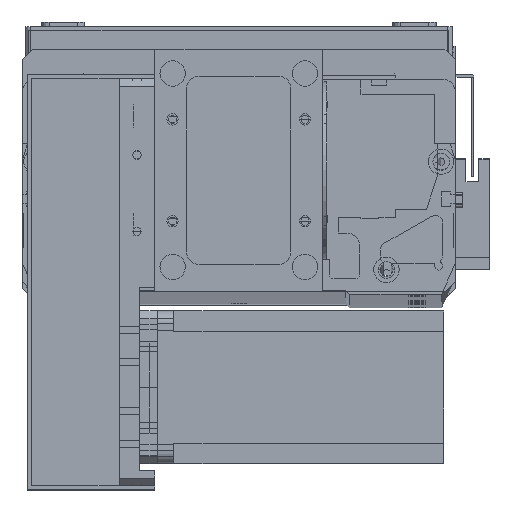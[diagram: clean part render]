
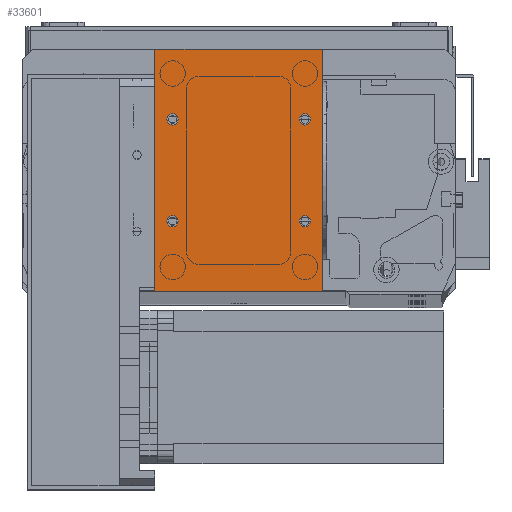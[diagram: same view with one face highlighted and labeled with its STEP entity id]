
A CAD part, top view. The second image highlights one B-rep face of the part: STEP entity #33601.
In plain terms, the highlighted planar face has unit normal (0, 0, 1).
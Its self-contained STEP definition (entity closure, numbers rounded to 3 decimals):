
#54 = DIRECTION ( 'NONE',  ( 0., -1., 0. ) ) ;
#174 = AXIS2_PLACEMENT_3D ( 'NONE', #1775, #2350, #2309 ) ;
#411 = CARTESIAN_POINT ( 'NONE',  ( 0., 0., 2. ) ) ;
#1315 = VERTEX_POINT ( 'NONE', #3995 ) ;
#1442 = CARTESIAN_POINT ( 'NONE',  ( 66., 0., 2. ) ) ;
#1775 = CARTESIAN_POINT ( 'NONE',  ( 59., 67.5, 2. ) ) ;
#1949 = EDGE_CURVE ( 'NONE', #20574, #1315, #27474, .T. ) ;
#2309 = DIRECTION ( 'NONE',  ( 1., 0., 0. ) ) ;
#2350 = DIRECTION ( 'NONE',  ( 0., 0., 1. ) ) ;
#2443 = CARTESIAN_POINT ( 'NONE',  ( 7., 67.5, 2. ) ) ;
#2707 = DIRECTION ( 'NONE',  ( 0., 0., 1. ) ) ;
#2804 = CARTESIAN_POINT ( 'NONE',  ( 0., 95., 2. ) ) ;
#3148 = EDGE_LOOP ( 'NONE', ( #3349, #14828 ) ) ;
#3349 = ORIENTED_EDGE ( 'NONE', *, *, #5697, .F. ) ;
#3589 = EDGE_CURVE ( 'NONE', #32654, #26481, #22846, .T. ) ;
#3813 = FACE_BOUND ( 'NONE', #33453, .T. ) ;
#3995 = CARTESIAN_POINT ( 'NONE',  ( 56.75, 67.5, 2. ) ) ;
#4403 = AXIS2_PLACEMENT_3D ( 'NONE', #19081, #2707, #21762 ) ;
#4791 = AXIS2_PLACEMENT_3D ( 'NONE', #31991, #16202, #34560 ) ;
#4952 = EDGE_LOOP ( 'NONE', ( #21361, #5451 ) ) ;
#5258 = DIRECTION ( 'NONE',  ( 1., 0., 0. ) ) ;
#5302 = ORIENTED_EDGE ( 'NONE', *, *, #34038, .F. ) ;
#5451 = ORIENTED_EDGE ( 'NONE', *, *, #18961, .F. ) ;
#5697 = EDGE_CURVE ( 'NONE', #13040, #24769, #10021, .T. ) ;
#6417 = CARTESIAN_POINT ( 'NONE',  ( 7., 27.5, 2. ) ) ;
#7358 = VECTOR ( 'NONE', #31015, 1000. ) ;
#7969 = EDGE_CURVE ( 'NONE', #25151, #24839, #15037, .T. ) ;
#8451 = VECTOR ( 'NONE', #16994, 1000. ) ;
#8768 = VERTEX_POINT ( 'NONE', #13777 ) ;
#8904 = VERTEX_POINT ( 'NONE', #10325 ) ;
#9286 = LINE ( 'NONE', #19708, #8451 ) ;
#9349 = FACE_OUTER_BOUND ( 'NONE', #24140, .T. ) ;
#9468 = AXIS2_PLACEMENT_3D ( 'NONE', #30487, #30444, #30322 ) ;
#9555 = DIRECTION ( 'NONE',  ( 1., 0., 0. ) ) ;
#9609 = CARTESIAN_POINT ( 'NONE',  ( 59., 27.5, 2. ) ) ;
#10021 = CIRCLE ( 'NONE', #28221, 2.25 ) ;
#10325 = CARTESIAN_POINT ( 'NONE',  ( 4.75, 67.5, 2. ) ) ;
#10456 = EDGE_CURVE ( 'NONE', #1315, #20574, #29112, .T. ) ;
#10609 = VERTEX_POINT ( 'NONE', #20420 ) ;
#11423 = ORIENTED_EDGE ( 'NONE', *, *, #32306, .T. ) ;
#12369 = DIRECTION ( 'NONE',  ( 1., 0., 0. ) ) ;
#12378 = ORIENTED_EDGE ( 'NONE', *, *, #30127, .F. ) ;
#13040 = VERTEX_POINT ( 'NONE', #16926 ) ;
#13777 = CARTESIAN_POINT ( 'NONE',  ( 66., 95., 2. ) ) ;
#14196 = DIRECTION ( 'NONE',  ( 0., 0., -1. ) ) ;
#14828 = ORIENTED_EDGE ( 'NONE', *, *, #29111, .F. ) ;
#14986 = CARTESIAN_POINT ( 'NONE',  ( 61.25, 27.5, 2. ) ) ;
#15037 = LINE ( 'NONE', #411, #28360 ) ;
#16202 = DIRECTION ( 'NONE',  ( 0., 0., 1. ) ) ;
#16642 = FACE_BOUND ( 'NONE', #3148, .T. ) ;
#16704 = ORIENTED_EDGE ( 'NONE', *, *, #17564, .T. ) ;
#16793 = VECTOR ( 'NONE', #9555, 1000. ) ;
#16926 = CARTESIAN_POINT ( 'NONE',  ( 9.25, 27.5, 2. ) ) ;
#16994 = DIRECTION ( 'NONE',  ( 0., 1., 0. ) ) ;
#17564 = EDGE_CURVE ( 'NONE', #24839, #18977, #30008, .T. ) ;
#18375 = FACE_BOUND ( 'NONE', #21701, .T. ) ;
#18414 = AXIS2_PLACEMENT_3D ( 'NONE', #9609, #28410, #12369 ) ;
#18961 = EDGE_CURVE ( 'NONE', #26481, #32654, #30747, .T. ) ;
#18977 = VERTEX_POINT ( 'NONE', #1442 ) ;
#19081 = CARTESIAN_POINT ( 'NONE',  ( 7., 27.5, 2. ) ) ;
#19538 = CARTESIAN_POINT ( 'NONE',  ( 0., 0., 2. ) ) ;
#19708 = CARTESIAN_POINT ( 'NONE',  ( 66., 0., 2. ) ) ;
#19952 = ORIENTED_EDGE ( 'NONE', *, *, #1949, .F. ) ;
#20099 = ORIENTED_EDGE ( 'NONE', *, *, #10456, .F. ) ;
#20387 = CARTESIAN_POINT ( 'NONE',  ( 4.75, 27.5, 2. ) ) ;
#20420 = CARTESIAN_POINT ( 'NONE',  ( 9.25, 67.5, 2. ) ) ;
#20574 = VERTEX_POINT ( 'NONE', #29966 ) ;
#21361 = ORIENTED_EDGE ( 'NONE', *, *, #3589, .F. ) ;
#21520 = DIRECTION ( 'NONE',  ( 0., 0., 1. ) ) ;
#21701 = EDGE_LOOP ( 'NONE', ( #5302, #12378 ) ) ;
#21762 = DIRECTION ( 'NONE',  ( 1., 0., 0. ) ) ;
#22639 = DIRECTION ( 'NONE',  ( 1., 0., 0. ) ) ;
#22751 = DIRECTION ( 'NONE',  ( 0., 0., 1. ) ) ;
#22756 = CARTESIAN_POINT ( 'NONE',  ( 59., 67.5, 2. ) ) ;
#22846 = CIRCLE ( 'NONE', #9468, 2.25 ) ;
#23128 = CARTESIAN_POINT ( 'NONE',  ( 0., 95., 2. ) ) ;
#23530 = AXIS2_PLACEMENT_3D ( 'NONE', #2443, #21520, #5258 ) ;
#23781 = FACE_BOUND ( 'NONE', #4952, .T. ) ;
#24140 = EDGE_LOOP ( 'NONE', ( #34593, #16704, #24193, #11423 ) ) ;
#24193 = ORIENTED_EDGE ( 'NONE', *, *, #24248, .T. ) ;
#24248 = EDGE_CURVE ( 'NONE', #18977, #8768, #9286, .T. ) ;
#24769 = VERTEX_POINT ( 'NONE', #20387 ) ;
#24839 = VERTEX_POINT ( 'NONE', #25944 ) ;
#24901 = PLANE ( 'NONE',  #26071 ) ;
#25151 = VERTEX_POINT ( 'NONE', #2804 ) ;
#25743 = CARTESIAN_POINT ( 'NONE',  ( 0., 0., 2. ) ) ;
#25944 = CARTESIAN_POINT ( 'NONE',  ( 0., 0., 2. ) ) ;
#26071 = AXIS2_PLACEMENT_3D ( 'NONE', #19538, #14196, #32685 ) ;
#26481 = VERTEX_POINT ( 'NONE', #28460 ) ;
#27474 = CIRCLE ( 'NONE', #174, 2.25 ) ;
#27861 = CIRCLE ( 'NONE', #23530, 2.25 ) ;
#28221 = AXIS2_PLACEMENT_3D ( 'NONE', #6417, #33325, #31084 ) ;
#28360 = VECTOR ( 'NONE', #54, 1000. ) ;
#28410 = DIRECTION ( 'NONE',  ( 0., 0., 1. ) ) ;
#28460 = CARTESIAN_POINT ( 'NONE',  ( 56.75, 27.5, 2. ) ) ;
#29053 = AXIS2_PLACEMENT_3D ( 'NONE', #22756, #22751, #22639 ) ;
#29111 = EDGE_CURVE ( 'NONE', #24769, #13040, #32768, .T. ) ;
#29112 = CIRCLE ( 'NONE', #29053, 2.25 ) ;
#29553 = LINE ( 'NONE', #23128, #7358 ) ;
#29966 = CARTESIAN_POINT ( 'NONE',  ( 61.25, 67.5, 2. ) ) ;
#30008 = LINE ( 'NONE', #25743, #16793 ) ;
#30127 = EDGE_CURVE ( 'NONE', #8904, #10609, #27861, .T. ) ;
#30322 = DIRECTION ( 'NONE',  ( 1., 0., 0. ) ) ;
#30444 = DIRECTION ( 'NONE',  ( 0., 0., 1. ) ) ;
#30487 = CARTESIAN_POINT ( 'NONE',  ( 59., 27.5, 2. ) ) ;
#30658 = CIRCLE ( 'NONE', #4791, 2.25 ) ;
#30747 = CIRCLE ( 'NONE', #18414, 2.25 ) ;
#31015 = DIRECTION ( 'NONE',  ( -1., 0., 0. ) ) ;
#31084 = DIRECTION ( 'NONE',  ( 1., 0., 0. ) ) ;
#31991 = CARTESIAN_POINT ( 'NONE',  ( 7., 67.5, 2. ) ) ;
#32306 = EDGE_CURVE ( 'NONE', #8768, #25151, #29553, .T. ) ;
#32654 = VERTEX_POINT ( 'NONE', #14986 ) ;
#32685 = DIRECTION ( 'NONE',  ( -1., 0., 0. ) ) ;
#32768 = CIRCLE ( 'NONE', #4403, 2.25 ) ;
#33325 = DIRECTION ( 'NONE',  ( 0., 0., 1. ) ) ;
#33453 = EDGE_LOOP ( 'NONE', ( #19952, #20099 ) ) ;
#33601 = ADVANCED_FACE ( 'NONE', ( #18375, #3813, #23781, #16642, #9349 ), #24901, .F. ) ;
#34038 = EDGE_CURVE ( 'NONE', #10609, #8904, #30658, .T. ) ;
#34560 = DIRECTION ( 'NONE',  ( 1., 0., 0. ) ) ;
#34593 = ORIENTED_EDGE ( 'NONE', *, *, #7969, .T. ) ;
